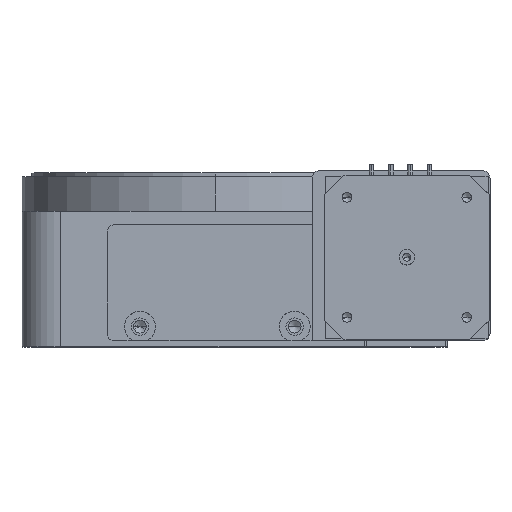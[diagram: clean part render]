
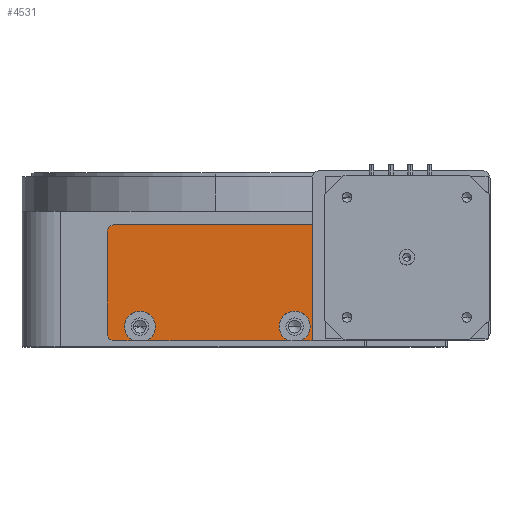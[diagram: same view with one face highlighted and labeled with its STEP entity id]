
A CAD part, top view. The second image highlights one B-rep face of the part: STEP entity #4531.
In plain terms, the highlighted planar face has unit normal (0, 0, 1).
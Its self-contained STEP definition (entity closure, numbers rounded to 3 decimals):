
#38 = VERTEX_POINT ( 'NONE', #7395 ) ;
#44 = VERTEX_POINT ( 'NONE', #3846 ) ;
#74 = LINE ( 'NONE', #3611, #6440 ) ;
#98 = CARTESIAN_POINT ( 'NONE',  ( 17., -11.3, 8. ) ) ;
#215 = DIRECTION ( 'NONE',  ( 1., 0., 0. ) ) ;
#297 = VERTEX_POINT ( 'NONE', #4740 ) ;
#298 = CARTESIAN_POINT ( 'NONE',  ( -31.5, -13., 8. ) ) ;
#345 = DIRECTION ( 'NONE',  ( -1., 0., 0. ) ) ;
#435 = CARTESIAN_POINT ( 'NONE',  ( -31.5, 13., 8. ) ) ;
#503 = DIRECTION ( 'NONE',  ( 1., 0., 0. ) ) ;
#518 = EDGE_CURVE ( 'NONE', #44, #531, #74, .T. ) ;
#531 = VERTEX_POINT ( 'NONE', #4488 ) ;
#628 = CARTESIAN_POINT ( 'NONE',  ( 0., 0., 8. ) ) ;
#633 = EDGE_CURVE ( 'NONE', #44, #4333, #7063, .T. ) ;
#664 = LINE ( 'NONE', #3524, #7400 ) ;
#669 = CIRCLE ( 'NONE', #6803, 4. ) ;
#735 = CARTESIAN_POINT ( 'NONE',  ( -29.5, 13., 8. ) ) ;
#1084 = DIRECTION ( 'NONE',  ( 1., 0., 0. ) ) ;
#1154 = CIRCLE ( 'NONE', #1317, 4. ) ;
#1172 = DIRECTION ( 'NONE',  ( 1., 0., 0. ) ) ;
#1317 = AXIS2_PLACEMENT_3D ( 'NONE', #4886, #2133, #2092 ) ;
#1343 = ORIENTED_EDGE ( 'NONE', *, *, #7359, .F. ) ;
#1349 = DIRECTION ( 'NONE',  ( 1., 0., 0. ) ) ;
#1350 = DIRECTION ( 'NONE',  ( 0., -1., 0. ) ) ;
#1387 = DIRECTION ( 'NONE',  ( 1., 0., 0. ) ) ;
#1451 = CARTESIAN_POINT ( 'NONE',  ( 13., -11.3, 8. ) ) ;
#1472 = AXIS2_PLACEMENT_3D ( 'NONE', #628, #5725, #1387 ) ;
#1688 = ORIENTED_EDGE ( 'NONE', *, *, #5377, .T. ) ;
#1693 = ORIENTED_EDGE ( 'NONE', *, *, #6057, .T. ) ;
#1696 = CARTESIAN_POINT ( 'NONE',  ( -23., -11.3, 8. ) ) ;
#1704 = EDGE_CURVE ( 'NONE', #7903, #9272, #6292, .T. ) ;
#1758 = VECTOR ( 'NONE', #3455, 1000. ) ;
#1815 = ORIENTED_EDGE ( 'NONE', *, *, #4970, .T. ) ;
#2092 = DIRECTION ( 'NONE',  ( 1., 0., 0. ) ) ;
#2133 = DIRECTION ( 'NONE',  ( 0., 0., 1. ) ) ;
#2199 = DIRECTION ( 'NONE',  ( 0., 0., 1. ) ) ;
#2229 = VERTEX_POINT ( 'NONE', #2385 ) ;
#2316 = ORIENTED_EDGE ( 'NONE', *, *, #7554, .F. ) ;
#2349 = CARTESIAN_POINT ( 'NONE',  ( 21., -11.3, 8. ) ) ;
#2385 = CARTESIAN_POINT ( 'NONE',  ( -24.52, -15., 8. ) ) ;
#2425 = AXIS2_PLACEMENT_3D ( 'NONE', #2497, #5440, #1084 ) ;
#2467 = CARTESIAN_POINT ( 'NONE',  ( -29.5, 15., 8. ) ) ;
#2486 = CIRCLE ( 'NONE', #6217, 4. ) ;
#2497 = CARTESIAN_POINT ( 'NONE',  ( -23., -11.3, 8. ) ) ;
#2751 = CARTESIAN_POINT ( 'NONE',  ( 17., -11.3, 8. ) ) ;
#3061 = CARTESIAN_POINT ( 'NONE',  ( -31.5, -15., 8. ) ) ;
#3134 = DIRECTION ( 'NONE',  ( 0., 0., 1. ) ) ;
#3223 = DIRECTION ( 'NONE',  ( 0., 0., 1. ) ) ;
#3279 = CARTESIAN_POINT ( 'NONE',  ( 17., -11.3, 8. ) ) ;
#3455 = DIRECTION ( 'NONE',  ( 0., -1., 0. ) ) ;
#3468 = ORIENTED_EDGE ( 'NONE', *, *, #8031, .F. ) ;
#3494 = CARTESIAN_POINT ( 'NONE',  ( 21.5, 15., 8. ) ) ;
#3524 = CARTESIAN_POINT ( 'NONE',  ( -31.5, -15., 8. ) ) ;
#3552 = ORIENTED_EDGE ( 'NONE', *, *, #518, .T. ) ;
#3611 = CARTESIAN_POINT ( 'NONE',  ( -31.5, -15., 8. ) ) ;
#3634 = AXIS2_PLACEMENT_3D ( 'NONE', #735, #2199, #8477 ) ;
#3749 = DIRECTION ( 'NONE',  ( 1., 0., 0. ) ) ;
#3846 = CARTESIAN_POINT ( 'NONE',  ( -21.48, -15., 8. ) ) ;
#4278 = AXIS2_PLACEMENT_3D ( 'NONE', #2751, #5689, #1349 ) ;
#4333 = VERTEX_POINT ( 'NONE', #7768 ) ;
#4488 = CARTESIAN_POINT ( 'NONE',  ( 15.48, -15., 8. ) ) ;
#4531 = ADVANCED_FACE ( 'NONE', ( #7093 ), #9292, .T. ) ;
#4532 = ORIENTED_EDGE ( 'NONE', *, *, #633, .F. ) ;
#4634 = VECTOR ( 'NONE', #1350, 1000. ) ;
#4740 = CARTESIAN_POINT ( 'NONE',  ( 21.5, 15., 8. ) ) ;
#4765 = CARTESIAN_POINT ( 'NONE',  ( -29.5, -13., 8. ) ) ;
#4811 = DIRECTION ( 'NONE',  ( 0., 0., 1. ) ) ;
#4886 = CARTESIAN_POINT ( 'NONE',  ( -23., -11.3, 8. ) ) ;
#4970 = EDGE_CURVE ( 'NONE', #8165, #5817, #664, .T. ) ;
#5313 = AXIS2_PLACEMENT_3D ( 'NONE', #3279, #4811, #503 ) ;
#5377 = EDGE_CURVE ( 'NONE', #7452, #7903, #5593, .T. ) ;
#5412 = VERTEX_POINT ( 'NONE', #1451 ) ;
#5440 = DIRECTION ( 'NONE',  ( 0., 0., 1. ) ) ;
#5593 = CIRCLE ( 'NONE', #3634, 2. ) ;
#5689 = DIRECTION ( 'NONE',  ( 0., 0., 1. ) ) ;
#5725 = DIRECTION ( 'NONE',  ( 0., 0., 1. ) ) ;
#5817 = VERTEX_POINT ( 'NONE', #6257 ) ;
#5867 = EDGE_LOOP ( 'NONE', ( #7264, #7366, #6477, #8783, #3468, #4532, #3552, #1343, #8667, #2316, #1815, #6896, #1693, #1688 ) ) ;
#6025 = EDGE_CURVE ( 'NONE', #38, #2229, #8730, .T. ) ;
#6057 = EDGE_CURVE ( 'NONE', #297, #7452, #8968, .T. ) ;
#6217 = AXIS2_PLACEMENT_3D ( 'NONE', #98, #7951, #7994 ) ;
#6257 = CARTESIAN_POINT ( 'NONE',  ( 21.5, -15., 8. ) ) ;
#6264 = VERTEX_POINT ( 'NONE', #9159 ) ;
#6292 = LINE ( 'NONE', #7774, #4634 ) ;
#6357 = EDGE_CURVE ( 'NONE', #6264, #2229, #669, .T. ) ;
#6374 = DIRECTION ( 'NONE',  ( 1., 0., 0. ) ) ;
#6440 = VECTOR ( 'NONE', #215, 1000. ) ;
#6477 = ORIENTED_EDGE ( 'NONE', *, *, #6025, .T. ) ;
#6803 = AXIS2_PLACEMENT_3D ( 'NONE', #1696, #3134, #3749 ) ;
#6896 = ORIENTED_EDGE ( 'NONE', *, *, #7643, .F. ) ;
#6985 = EDGE_CURVE ( 'NONE', #8214, #5412, #8013, .T. ) ;
#6995 = EDGE_CURVE ( 'NONE', #9272, #38, #7248, .T. ) ;
#7054 = LINE ( 'NONE', #3494, #1758 ) ;
#7063 = CIRCLE ( 'NONE', #2425, 4. ) ;
#7093 = FACE_OUTER_BOUND ( 'NONE', #5867, .T. ) ;
#7226 = VECTOR ( 'NONE', #8780, 1000. ) ;
#7248 = CIRCLE ( 'NONE', #8748, 2. ) ;
#7264 = ORIENTED_EDGE ( 'NONE', *, *, #1704, .T. ) ;
#7359 = EDGE_CURVE ( 'NONE', #5412, #531, #2486, .T. ) ;
#7366 = ORIENTED_EDGE ( 'NONE', *, *, #6995, .T. ) ;
#7395 = CARTESIAN_POINT ( 'NONE',  ( -29.5, -15., 8. ) ) ;
#7400 = VECTOR ( 'NONE', #6374, 1000. ) ;
#7452 = VERTEX_POINT ( 'NONE', #2467 ) ;
#7472 = CARTESIAN_POINT ( 'NONE',  ( -31.5, 15., 8. ) ) ;
#7546 = VECTOR ( 'NONE', #345, 1000. ) ;
#7554 = EDGE_CURVE ( 'NONE', #8165, #8214, #8327, .T. ) ;
#7643 = EDGE_CURVE ( 'NONE', #297, #5817, #7054, .T. ) ;
#7768 = CARTESIAN_POINT ( 'NONE',  ( -19., -11.3, 8. ) ) ;
#7774 = CARTESIAN_POINT ( 'NONE',  ( -31.5, 15., 8. ) ) ;
#7903 = VERTEX_POINT ( 'NONE', #435 ) ;
#7951 = DIRECTION ( 'NONE',  ( 0., 0., 1. ) ) ;
#7977 = CARTESIAN_POINT ( 'NONE',  ( 18.52, -15., 8. ) ) ;
#7994 = DIRECTION ( 'NONE',  ( 1., 0., 0. ) ) ;
#8013 = CIRCLE ( 'NONE', #5313, 4. ) ;
#8031 = EDGE_CURVE ( 'NONE', #4333, #6264, #1154, .T. ) ;
#8165 = VERTEX_POINT ( 'NONE', #7977 ) ;
#8214 = VERTEX_POINT ( 'NONE', #2349 ) ;
#8327 = CIRCLE ( 'NONE', #4278, 4. ) ;
#8477 = DIRECTION ( 'NONE',  ( 1., 0., 0. ) ) ;
#8667 = ORIENTED_EDGE ( 'NONE', *, *, #6985, .F. ) ;
#8730 = LINE ( 'NONE', #3061, #7226 ) ;
#8748 = AXIS2_PLACEMENT_3D ( 'NONE', #4765, #3223, #1172 ) ;
#8780 = DIRECTION ( 'NONE',  ( 1., 0., 0. ) ) ;
#8783 = ORIENTED_EDGE ( 'NONE', *, *, #6357, .F. ) ;
#8968 = LINE ( 'NONE', #7472, #7546 ) ;
#9159 = CARTESIAN_POINT ( 'NONE',  ( -27., -11.3, 8. ) ) ;
#9272 = VERTEX_POINT ( 'NONE', #298 ) ;
#9292 = PLANE ( 'NONE',  #1472 ) ;
